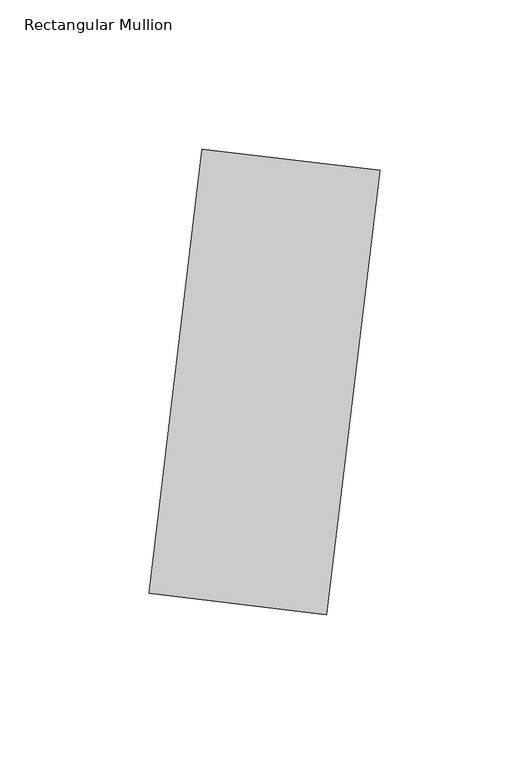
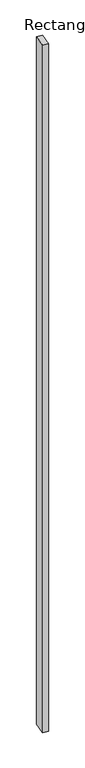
"""IFC4 building model written with IfcOpenShell, lengths in millimetres: member geometry, Rectangular Mullion : CONTRA-FRECHAL 6X15 cm."""

from ifc_helpers import new_model, si_unit, frame, origin, place, context, project, spatial, polyline, outline, extrude, source, transform, mapped, element, save


def rectangular_mullion_acc46a1c(model_context):
    return source(origin(), model_context, "Body", "SweptSolid", [
        extrude(outline(polyline([(-29.7863052, -126.4256434), (-11.9145221, 22.5058824), (47.6580882, 15.3571692), (29.7863052, -133.5743566), (-29.7863052, -126.4256434)])), frame((0.0, 0.0, -7800.0), z_axis=(0.0, 0.0, 1.0), x_axis=(1.0, 0.0, 0.0)), (0.0, 0.0, 1.0), 7800.0),
    ])


if __name__ == "__main__":
    model = new_model("IFC4")
    model_context = context("Model", 3, world=origin())
    ifc_project = project(units=[si_unit("LENGTHUNIT", "METRE", prefix="MILLI")], contexts=[model_context])
    site = spatial("IfcSite", under=ifc_project)
    building = spatial("IfcBuilding", under=site)
    placement = place(None, origin())
    rectangular_mullion_shape = rectangular_mullion_acc46a1c(model_context)
    element("IfcMember", 1, ObjectType="Rectangular Mullion : CONTRA-FRECHAL 6X15 cm", at=placement, inside=building, context=model_context, shape_type="MappedRepresentation", body=[
        mapped(rectangular_mullion_shape, transform((0.0, 0.0, 0.0), x_axis=(1.0, 0.0, 0.0), y_axis=(0.0, 1.0, 0.0), z_axis=(0.0, 0.0, 1.0))),
    ])
    save(model, "model.ifc")
